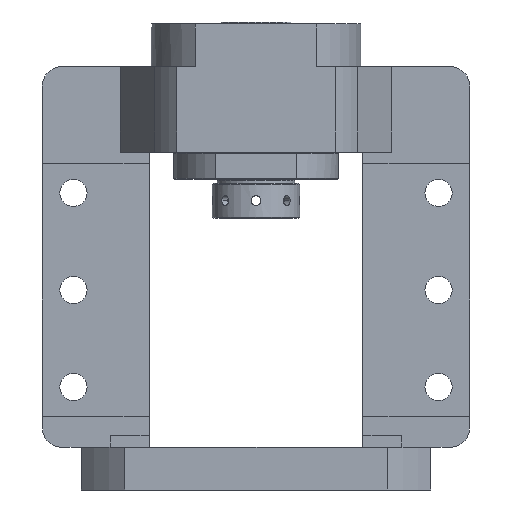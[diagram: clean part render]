
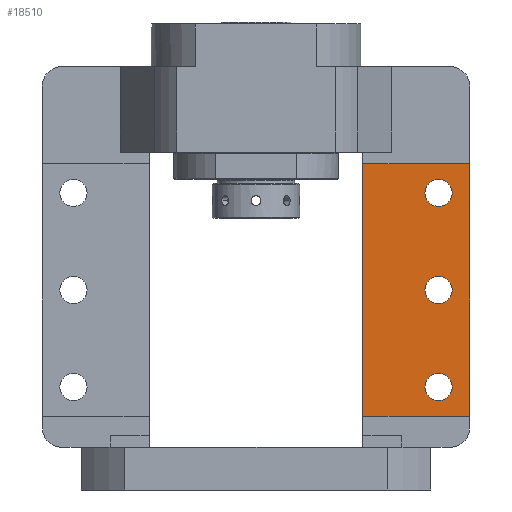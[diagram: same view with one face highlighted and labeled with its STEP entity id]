
A CAD part, front view. The second image highlights one B-rep face of the part: STEP entity #18510.
In plain terms, the highlighted planar face has unit normal (0, -1, 0).
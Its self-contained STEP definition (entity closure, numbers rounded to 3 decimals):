
#101 = FACE_BOUND ( 'NONE', #4779, .T. ) ;
#124 = CIRCLE ( 'NONE', #2294, 7. ) ;
#425 = ORIENTED_EDGE ( 'NONE', *, *, #20307, .F. ) ;
#429 = DIRECTION ( 'NONE',  ( 0., 0., -1. ) ) ;
#750 = ORIENTED_EDGE ( 'NONE', *, *, #1261, .T. ) ;
#790 = CARTESIAN_POINT ( 'NONE',  ( 94., 0., 160. ) ) ;
#901 = EDGE_CURVE ( 'NONE', #1541, #4462, #14529, .T. ) ;
#1261 = EDGE_CURVE ( 'NONE', #16559, #3250, #10575, .T. ) ;
#1541 = VERTEX_POINT ( 'NONE', #15724 ) ;
#2294 = AXIS2_PLACEMENT_3D ( 'NONE', #4939, #15944, #6515 ) ;
#2346 = ORIENTED_EDGE ( 'NONE', *, *, #901, .F. ) ;
#2457 = VERTEX_POINT ( 'NONE', #16810 ) ;
#2673 = VERTEX_POINT ( 'NONE', #12430 ) ;
#2713 = EDGE_CURVE ( 'NONE', #2673, #7209, #9829, .T. ) ;
#2858 = EDGE_CURVE ( 'NONE', #3742, #16559, #5130, .T. ) ;
#3027 = CARTESIAN_POINT ( 'NONE',  ( 94., 0., 153. ) ) ;
#3247 = EDGE_CURVE ( 'NONE', #2457, #3250, #5359, .T. ) ;
#3250 = VERTEX_POINT ( 'NONE', #17730 ) ;
#3382 = DIRECTION ( 'NONE',  ( 0., 0., -1. ) ) ;
#3389 = CIRCLE ( 'NONE', #17519, 7. ) ;
#3526 = CARTESIAN_POINT ( 'NONE',  ( 110., 0., 225. ) ) ;
#3538 = CARTESIAN_POINT ( 'NONE',  ( 110., 0., 225. ) ) ;
#3742 = VERTEX_POINT ( 'NONE', #12224 ) ;
#3747 = AXIS2_PLACEMENT_3D ( 'NONE', #8881, #19909, #10468 ) ;
#3771 = VERTEX_POINT ( 'NONE', #9116 ) ;
#4462 = VERTEX_POINT ( 'NONE', #13113 ) ;
#4633 = DIRECTION ( 'NONE',  ( 0., 0., -1. ) ) ;
#4652 = CARTESIAN_POINT ( 'NONE',  ( 94., 0., 103. ) ) ;
#4710 = VERTEX_POINT ( 'NONE', #8753 ) ;
#4779 = EDGE_LOOP ( 'NONE', ( #7925, #2346 ) ) ;
#4939 = CARTESIAN_POINT ( 'NONE',  ( 94., 0., 103. ) ) ;
#5130 = LINE ( 'NONE', #17360, #13022 ) ;
#5137 = PLANE ( 'NONE',  #19874 ) ;
#5359 = LINE ( 'NONE', #3538, #13258 ) ;
#5503 = EDGE_CURVE ( 'NONE', #7209, #2673, #19603, .T. ) ;
#5869 = DIRECTION ( 'NONE',  ( 0., -1., 0. ) ) ;
#6229 = DIRECTION ( 'NONE',  ( 0., 0., -1. ) ) ;
#6515 = DIRECTION ( 'NONE',  ( 0., 0., -1. ) ) ;
#6870 = VECTOR ( 'NONE', #15477, 1000. ) ;
#7106 = CARTESIAN_POINT ( 'NONE',  ( 55., 0., 38. ) ) ;
#7209 = VERTEX_POINT ( 'NONE', #790 ) ;
#7863 = DIRECTION ( 'NONE',  ( 0., -1., 0. ) ) ;
#7925 = ORIENTED_EDGE ( 'NONE', *, *, #17334, .F. ) ;
#8008 = ORIENTED_EDGE ( 'NONE', *, *, #2858, .T. ) ;
#8226 = EDGE_LOOP ( 'NONE', ( #13145, #17025, #8008, #750 ) ) ;
#8320 = DIRECTION ( 'NONE',  ( 0., 0., -1. ) ) ;
#8478 = ORIENTED_EDGE ( 'NONE', *, *, #17682, .F. ) ;
#8510 = FACE_BOUND ( 'NONE', #9898, .T. ) ;
#8753 = CARTESIAN_POINT ( 'NONE',  ( 94., 0., 110. ) ) ;
#8881 = CARTESIAN_POINT ( 'NONE',  ( 94., 0., 53. ) ) ;
#9116 = CARTESIAN_POINT ( 'NONE',  ( 94., 0., 96. ) ) ;
#9261 = ORIENTED_EDGE ( 'NONE', *, *, #5503, .F. ) ;
#9494 = AXIS2_PLACEMENT_3D ( 'NONE', #15288, #5869, #16872 ) ;
#9497 = FACE_BOUND ( 'NONE', #10556, .T. ) ;
#9829 = CIRCLE ( 'NONE', #19538, 7. ) ;
#9898 = EDGE_LOOP ( 'NONE', ( #8478, #425 ) ) ;
#9902 = DIRECTION ( 'NONE',  ( 0., -1., 0. ) ) ;
#10468 = DIRECTION ( 'NONE',  ( 0., 0., -1. ) ) ;
#10556 = EDGE_LOOP ( 'NONE', ( #14230, #9261 ) ) ;
#10575 = LINE ( 'NONE', #12409, #6870 ) ;
#11507 = LINE ( 'NONE', #12464, #15145 ) ;
#11522 = CIRCLE ( 'NONE', #3747, 7. ) ;
#12224 = CARTESIAN_POINT ( 'NONE',  ( 55., 0., 168. ) ) ;
#12409 = CARTESIAN_POINT ( 'NONE',  ( 110., 0., 38. ) ) ;
#12430 = CARTESIAN_POINT ( 'NONE',  ( 94., 0., 146. ) ) ;
#12464 = CARTESIAN_POINT ( 'NONE',  ( 110., 0., 168. ) ) ;
#12516 = EDGE_CURVE ( 'NONE', #2457, #3742, #11507, .T. ) ;
#12697 = AXIS2_PLACEMENT_3D ( 'NONE', #3027, #14068, #4633 ) ;
#13022 = VECTOR ( 'NONE', #3382, 1000. ) ;
#13113 = CARTESIAN_POINT ( 'NONE',  ( 94., 0., 46. ) ) ;
#13145 = ORIENTED_EDGE ( 'NONE', *, *, #3247, .F. ) ;
#13258 = VECTOR ( 'NONE', #8320, 1000. ) ;
#14068 = DIRECTION ( 'NONE',  ( 0., -1., 0. ) ) ;
#14230 = ORIENTED_EDGE ( 'NONE', *, *, #2713, .F. ) ;
#14529 = CIRCLE ( 'NONE', #9494, 7. ) ;
#15145 = VECTOR ( 'NONE', #18712, 1000. ) ;
#15288 = CARTESIAN_POINT ( 'NONE',  ( 94., 0., 53. ) ) ;
#15477 = DIRECTION ( 'NONE',  ( 1., 0., 0. ) ) ;
#15649 = DIRECTION ( 'NONE',  ( 0., -1., 0. ) ) ;
#15724 = CARTESIAN_POINT ( 'NONE',  ( 94., 0., 60. ) ) ;
#15944 = DIRECTION ( 'NONE',  ( 0., -1., 0. ) ) ;
#16559 = VERTEX_POINT ( 'NONE', #7106 ) ;
#16810 = CARTESIAN_POINT ( 'NONE',  ( 110., 0., 168. ) ) ;
#16854 = FACE_OUTER_BOUND ( 'NONE', #8226, .T. ) ;
#16872 = DIRECTION ( 'NONE',  ( 0., 0., -1. ) ) ;
#17025 = ORIENTED_EDGE ( 'NONE', *, *, #12516, .T. ) ;
#17290 = CARTESIAN_POINT ( 'NONE',  ( 94., 0., 153. ) ) ;
#17334 = EDGE_CURVE ( 'NONE', #4462, #1541, #11522, .T. ) ;
#17360 = CARTESIAN_POINT ( 'NONE',  ( 55., 0., 225. ) ) ;
#17519 = AXIS2_PLACEMENT_3D ( 'NONE', #4652, #15649, #6229 ) ;
#17682 = EDGE_CURVE ( 'NONE', #3771, #4710, #124, .T. ) ;
#17730 = CARTESIAN_POINT ( 'NONE',  ( 110., 0., 38. ) ) ;
#18510 = ADVANCED_FACE ( 'NONE', ( #9497, #101, #8510, #16854 ), #5137, .T. ) ;
#18712 = DIRECTION ( 'NONE',  ( -1., 0., 0. ) ) ;
#18877 = DIRECTION ( 'NONE',  ( 0., 0., -1. ) ) ;
#19538 = AXIS2_PLACEMENT_3D ( 'NONE', #17290, #7863, #18877 ) ;
#19603 = CIRCLE ( 'NONE', #12697, 7. ) ;
#19874 = AXIS2_PLACEMENT_3D ( 'NONE', #3526, #9902, #429 ) ;
#19909 = DIRECTION ( 'NONE',  ( 0., -1., 0. ) ) ;
#20307 = EDGE_CURVE ( 'NONE', #4710, #3771, #3389, .T. ) ;
